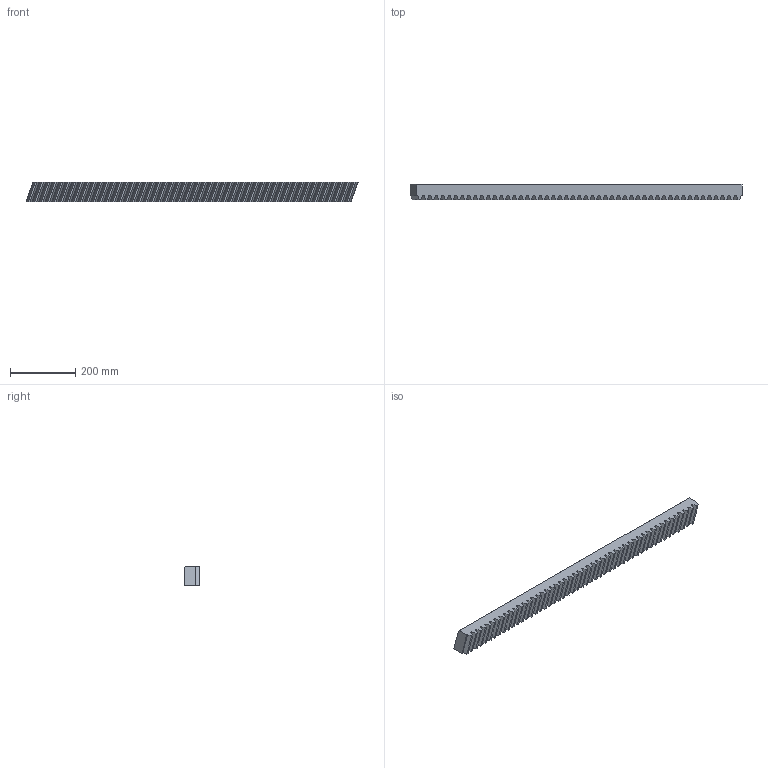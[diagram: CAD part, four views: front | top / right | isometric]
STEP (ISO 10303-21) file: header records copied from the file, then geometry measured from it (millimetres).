
FILE_DESCRIPTION(/* description */ (''),/* implementation_level */ '2;1');
FILE_NAME(/* name */ 'BL-1HR26R060100.ipt',/* time_stamp */ '2019-06-18T08:37:43+02:00',/* author */ ('VĂ©gh MĂˇtĂ©'),/* organization */ ('Bearing Kft'),/* preprocessor_version */ 'ST-DEVELOPER v16.7',/* originating_system */ 'DEX',/* authorisation */ $);
FILE_SCHEMA (('AUTOMOTIVE_DESIGN {1 0 10303 214 3 1 1}'));
Length unit declared in the file: millimetre
Products named in the file (1): BL-1HR26R060100.ipt
Bounding box: 1020.93 x 49 x 59 mm (x, y, z)
Volume: 2509979.2 mm3; surface area: 264904.7 mm2
Topology: 1 solids, 1 shells, 636 faces, 1728 edges, 1152 vertices
Faces by surface type: plane 454, bspline 181, cylinder 1
Entity records: 25679 total; most frequent: CARTESIAN_POINT 10263, ORIENTED_EDGE 3434, DIRECTION 2669, EDGE_CURVE 1717, LINE 1353, VECTOR 1353, VERTEX_POINT 1152, EDGE_LOOP 705
